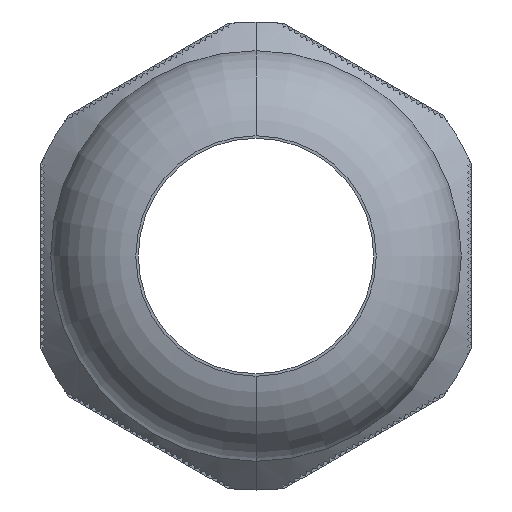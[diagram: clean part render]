
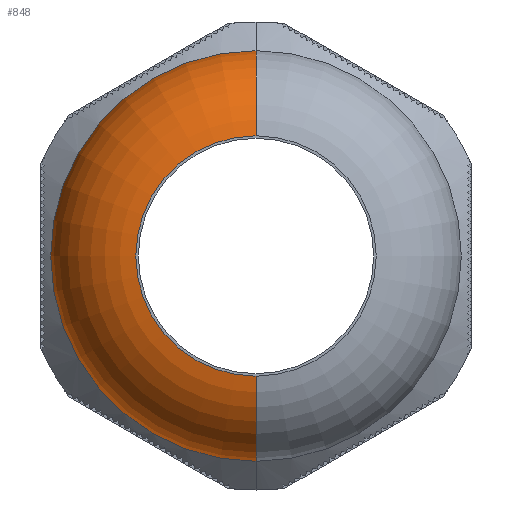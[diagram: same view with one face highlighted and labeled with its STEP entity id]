
A CAD part, left-side view. The second image highlights one B-rep face of the part: STEP entity #848.
In plain terms, the highlighted toroidal (fillet/blend) face has major radius 7.98 mm and minor radius 7.62 mm.
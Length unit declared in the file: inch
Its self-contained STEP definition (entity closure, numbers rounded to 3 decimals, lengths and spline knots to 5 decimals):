
#116 = VERTEX_POINT ( 'NONE', #24385 ) ;
#222 = VERTEX_POINT ( 'NONE', #25006 ) ;
#317 = EDGE_CURVE ( 'NONE', #222, #116, #13938, .T. ) ;
#848 = ADVANCED_FACE ( 'NONE', ( #3111 ), #3148, .T. ) ;
#1116 = VERTEX_POINT ( 'NONE', #3343 ) ;
#1117 = ORIENTED_EDGE ( 'NONE', *, *, #1118, .F. ) ;
#1118 = EDGE_CURVE ( 'NONE', #222, #1116, #3332, .T. ) ;
#1121 = VERTEX_POINT ( 'NONE', #3323 ) ;
#1122 = ORIENTED_EDGE ( 'NONE', *, *, #1123, .F. ) ;
#1123 = EDGE_CURVE ( 'NONE', #1116, #1121, #3322, .T. ) ;
#1240 = EDGE_LOOP ( 'NONE', ( #1452, #1453, #1122, #1117 ) ) ;
#1321 = EDGE_CURVE ( 'NONE', #116, #1121, #4121, .T. ) ;
#1452 = ORIENTED_EDGE ( 'NONE', *, *, #317, .T. ) ;
#1453 = ORIENTED_EDGE ( 'NONE', *, *, #1321, .T. ) ;
#3111 = FACE_OUTER_BOUND ( 'NONE', #1240, .T. ) ;
#3145 = DIRECTION ( 'NONE',  ( 0., 0., 1. ) ) ;
#3146 = DIRECTION ( 'NONE',  ( -1., 0., 0. ) ) ;
#3147 = AXIS2_PLACEMENT_3D ( 'NONE', #3149, #3146, #3145 ) ;
#3148 = TOROIDAL_SURFACE ( 'NONE', #3147, 0.31418, 0.3 ) ;
#3149 = CARTESIAN_POINT ( 'NONE',  ( 0.29671, 0., 0. ) ) ;
#3319 = DIRECTION ( 'NONE',  ( -1., 0., 0. ) ) ;
#3320 = CARTESIAN_POINT ( 'NONE',  ( 0., 0., 0. ) ) ;
#3321 = AXIS2_PLACEMENT_3D ( 'NONE', #3320, #3319, #3364 ) ;
#3322 = CIRCLE ( 'NONE', #3321, 0.3585 ) ;
#3323 = CARTESIAN_POINT ( 'NONE',  ( 0., 0., -0.3585 ) ) ;
#3329 = DIRECTION ( 'NONE',  ( 0., 0., -1. ) ) ;
#3330 = DIRECTION ( 'NONE',  ( 0., -1., 0. ) ) ;
#3331 = AXIS2_PLACEMENT_3D ( 'NONE', #3342, #3330, #3329 ) ;
#3332 = CIRCLE ( 'NONE', #3331, 0.3 ) ;
#3342 = CARTESIAN_POINT ( 'NONE',  ( 0.29671, 0., 0.31418 ) ) ;
#3343 = CARTESIAN_POINT ( 'NONE',  ( 0., 0., 0.3585 ) ) ;
#3364 = DIRECTION ( 'NONE',  ( 0., 0., 1. ) ) ;
#4118 = DIRECTION ( 'NONE',  ( 0., 0., 1. ) ) ;
#4119 = DIRECTION ( 'NONE',  ( 0., 1., 0. ) ) ;
#4120 = AXIS2_PLACEMENT_3D ( 'NONE', #4126, #4119, #4118 ) ;
#4121 = CIRCLE ( 'NONE', #4120, 0.3 ) ;
#4126 = CARTESIAN_POINT ( 'NONE',  ( 0.29671, 0., -0.31418 ) ) ;
#13934 = DIRECTION ( 'NONE',  ( 0., 0., 1. ) ) ;
#13936 = DIRECTION ( 'NONE',  ( -1., 0., 0. ) ) ;
#13937 = AXIS2_PLACEMENT_3D ( 'NONE', #13949, #13936, #13934 ) ;
#13938 = CIRCLE ( 'NONE', #13937, 0.6125 ) ;
#13949 = CARTESIAN_POINT ( 'NONE',  ( 0.265, 0., 0. ) ) ;
#24385 = CARTESIAN_POINT ( 'NONE',  ( 0.265, 0., -0.6125 ) ) ;
#25006 = CARTESIAN_POINT ( 'NONE',  ( 0.265, 0., 0.6125 ) ) ;
